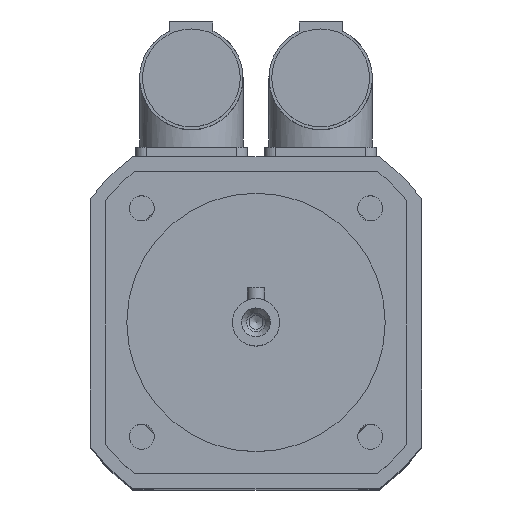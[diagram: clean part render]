
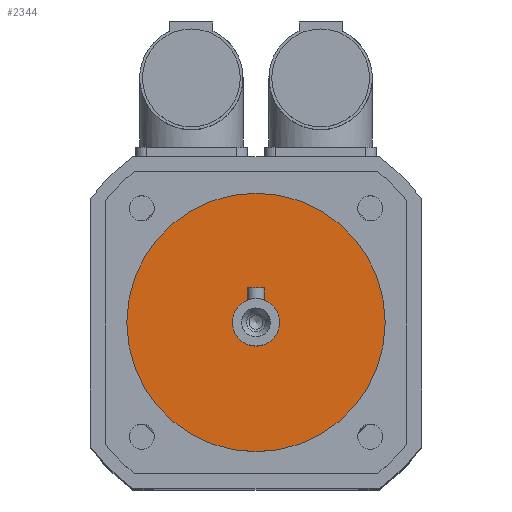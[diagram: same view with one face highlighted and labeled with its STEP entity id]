
A CAD part, top view. The second image highlights one B-rep face of the part: STEP entity #2344.
In plain terms, the highlighted planar face has unit normal (0, 0, 1).
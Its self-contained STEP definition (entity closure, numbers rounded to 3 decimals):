
#472=PLANE('',#2526);
#587=FACE_BOUND('',#805,.T.);
#653=FACE_OUTER_BOUND('',#804,.T.);
#804=EDGE_LOOP('',(#1839));
#805=EDGE_LOOP('',(#1840));
#951=CIRCLE('',#2525,5.5);
#952=CIRCLE('',#2527,30.);
#1114=VERTEX_POINT('',#3730);
#1115=VERTEX_POINT('',#3733);
#1385=EDGE_CURVE('',#1114,#1114,#951,.T.);
#1386=EDGE_CURVE('',#1115,#1115,#952,.T.);
#1839=ORIENTED_EDGE('',*,*,#1386,.F.);
#1840=ORIENTED_EDGE('',*,*,#1385,.T.);
#2344=ADVANCED_FACE('',(#653,#587),#472,.T.);
#2525=AXIS2_PLACEMENT_3D('',#3731,#2946,#2947);
#2526=AXIS2_PLACEMENT_3D('',#3732,#2948,#2949);
#2527=AXIS2_PLACEMENT_3D('',#3734,#2950,#2951);
#2946=DIRECTION('center_axis',(0.,0.,-1.));
#2947=DIRECTION('ref_axis',(1.,0.,0.));
#2948=DIRECTION('center_axis',(0.,0.,1.));
#2949=DIRECTION('ref_axis',(1.,0.,0.));
#2950=DIRECTION('center_axis',(0.,0.,-1.));
#2951=DIRECTION('ref_axis',(1.,0.,0.));
#3730=CARTESIAN_POINT('',(0.,5.5,166.5));
#3731=CARTESIAN_POINT('Origin',(0.,0.,166.5));
#3732=CARTESIAN_POINT('Origin',(0.,30.,166.5));
#3733=CARTESIAN_POINT('',(0.,30.,166.5));
#3734=CARTESIAN_POINT('Origin',(0.,0.,166.5));
